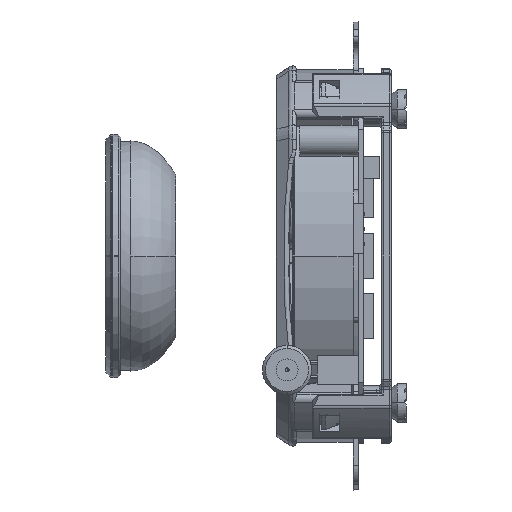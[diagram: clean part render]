
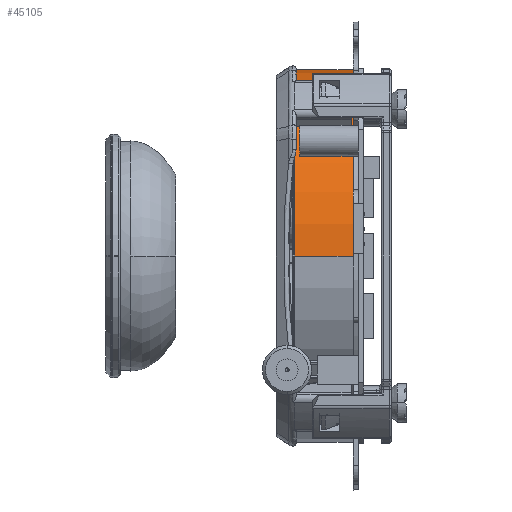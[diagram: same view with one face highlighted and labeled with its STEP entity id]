
A CAD part, left-side view. The second image highlights one B-rep face of the part: STEP entity #45105.
In plain terms, the highlighted cylindrical face has radius 37.2 mm (diameter 74.4 mm), a partial arc.
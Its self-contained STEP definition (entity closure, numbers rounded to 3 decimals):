
#36285=CARTESIAN_POINT('',(0.,11.7,0.));
#36286=DIRECTION('',(0.,1.,0.));
#36287=DIRECTION('',(-1.,0.,0.));
#36288=AXIS2_PLACEMENT_3D('',#36285,#36286,#36287);
#38713=CARTESIAN_POINT('',(0.,0.,0.));
#38714=DIRECTION('',(0.,1.,0.));
#38715=DIRECTION('',(-1.,0.,0.));
#38716=AXIS2_PLACEMENT_3D('',#38713,#38714,#38715);
#38718=DIRECTION('',(0.,1.,0.));
#38719=VECTOR('',#38718,11.7);
#38720=CARTESIAN_POINT('',(-37.2,0.,0.));
#38721=LINE('',#38720,#38719);
#38722=DIRECTION('',(0.,-1.,0.));
#38723=VECTOR('',#38722,11.7);
#38724=CARTESIAN_POINT('',(37.2,11.7,0.));
#38725=LINE('',#38724,#38723);
#39088=CARTESIAN_POINT('',(37.2,11.7,0.));
#39089=CARTESIAN_POINT('',(-37.2,11.7,0.));
#39090=VERTEX_POINT('',#39088);
#39091=VERTEX_POINT('',#39089);
#39180=CARTESIAN_POINT('',(37.2,0.,0.));
#39181=CARTESIAN_POINT('',(-37.2,0.,0.));
#39182=VERTEX_POINT('',#39180);
#39183=VERTEX_POINT('',#39181);
#45094=CARTESIAN_POINT('',(0.,0.,0.));
#45095=DIRECTION('',(0.,1.,0.));
#45096=DIRECTION('',(1.,0.,0.));
#45097=AXIS2_PLACEMENT_3D('',#45094,#45095,#45096);
#45098=CYLINDRICAL_SURFACE('',#45097,37.2);
#45099=ORIENTED_EDGE('',*,*,#40999,.F.);
#45100=ORIENTED_EDGE('',*,*,#40825,.T.);
#45101=ORIENTED_EDGE('',*,*,#40763,.T.);
#45102=ORIENTED_EDGE('',*,*,#40822,.T.);
#45103=EDGE_LOOP('',(#45099,#45100,#45101,#45102));
#45104=FACE_OUTER_BOUND('',#45103,.F.);
#45105=ADVANCED_FACE('',(#45104),#45098,.T.);
#36289=CIRCLE('',#36288,37.2);
#38717=CIRCLE('',#38716,37.2);
#40763=EDGE_CURVE('',#39091,#39090,#36289,.T.);
#40822=EDGE_CURVE('',#39090,#39182,#38725,.T.);
#40825=EDGE_CURVE('',#39183,#39091,#38721,.T.);
#40999=EDGE_CURVE('',#39183,#39182,#38717,.T.);
